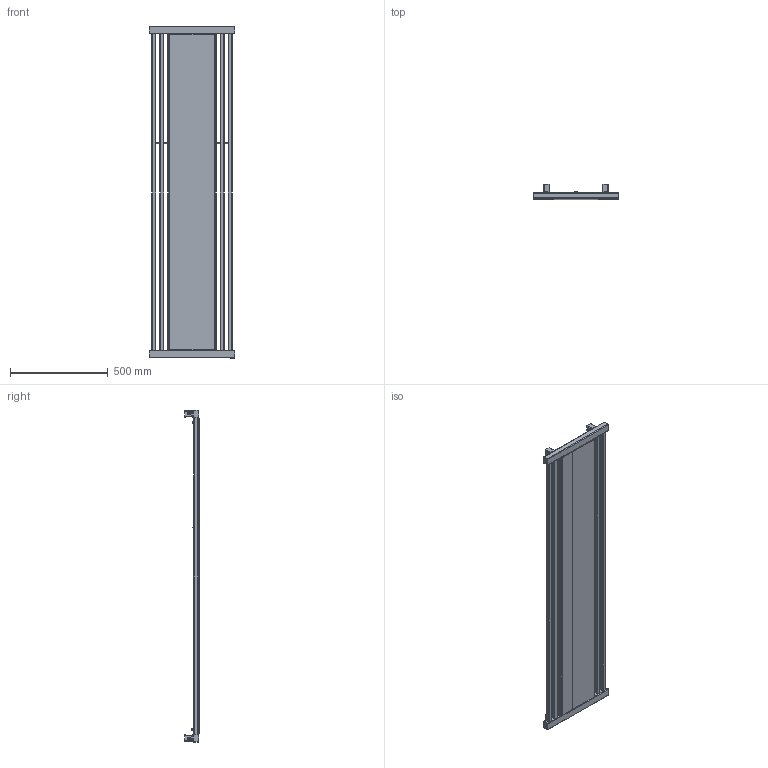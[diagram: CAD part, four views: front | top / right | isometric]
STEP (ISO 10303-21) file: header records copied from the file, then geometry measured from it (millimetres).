
FILE_DESCRIPTION((''),'2;1');
FILE_NAME('Z:\R\G\P\RGPH04 - Grzejnik Intra\Work\Inventor\Marketing\STEP\IN 17-44-ZX.stp','2012-07-25T14:03:26',('PioRo'),(''),'Autodesk Inventor 2012','Autodesk Inventor 2012','');
FILE_SCHEMA(('CONFIG_CONTROL_DESIGN'));
Length unit declared in the file: millimetre
Products named in the file (1): Zestawienie IN v2.2 kopia_Shrinkwrap_1
Bounding box: 440 x 74 x 1700 mm (x, y, z)
Volume: 8469744.8 mm3; surface area: 2275773.2 mm2
Topology: 6 solids, 32 shells, 592 faces, 1373 edges, 858 vertices
Faces by surface type: plane 284, cylinder 196, bspline 72, cone 28, torus 12
Full cylindrical faces by diameter (mm): 6.912 x2, 8 x4, 9.5 x2, 10 x4, 11 x4, 11.1 x2, 12 x2, 13 x2, 18.631 x3
Entity records: 19895 total; most frequent: CARTESIAN_POINT 6287, ORIENTED_EDGE 2624, DIRECTION 2608, EDGE_CURVE 1312, AXIS2_PLACEMENT_3D 943, VERTEX_POINT 846, VECTOR 722, LINE 722
